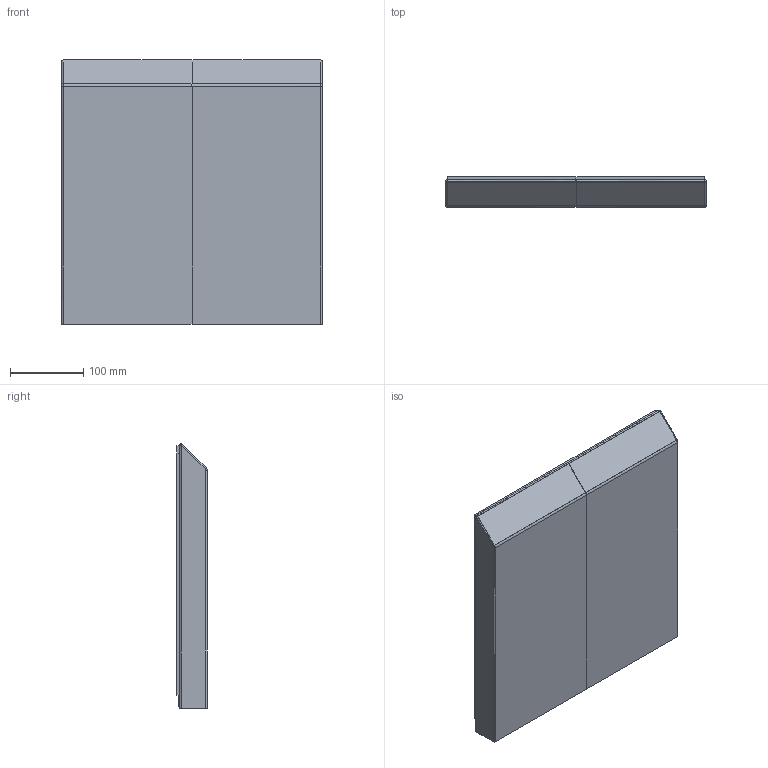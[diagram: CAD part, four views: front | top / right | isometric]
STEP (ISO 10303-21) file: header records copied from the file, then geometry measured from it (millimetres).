
FILE_DESCRIPTION(/* description */ (''),/* implementation_level */ '2;1');
FILE_NAME(/* name */ 'ssc-20 (x clienti)',/* time_stamp */ '2013-02-01T15:38:26+01:00',/* author */ (''),/* organization */ (''),/* preprocessor_version */ 'ST-DEVELOPER v10',/* originating_system */ '',/* authorisation */ '');
FILE_SCHEMA (('CONFIG_CONTROL_DESIGN'));
Length unit declared in the file: millimetre
Products named in the file (1): 1
Bounding box: 356 x 41.5 x 361 mm (x, y, z)
Volume: 224073.7 mm3; surface area: 415725.4 mm2
Topology: 10 solids, 10 shells, 158 faces, 370 edges, 232 vertices
Faces by surface type: bspline 106, plane 52
Entity records: 5318 total; most frequent: CARTESIAN_POINT 3036, ORIENTED_EDGE 740, EDGE_CURVE 370, VERTEX_POINT 232, B_SPLINE_CURVE_WITH_KNOTS 164, ADVANCED_FACE 158, FACE_OUTER_BOUND 158, EDGE_LOOP 158
